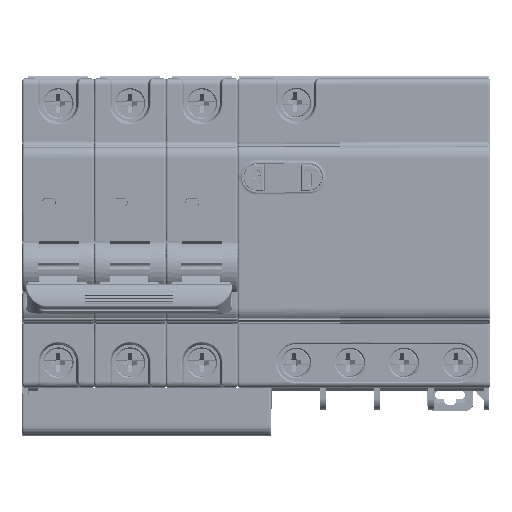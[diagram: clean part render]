
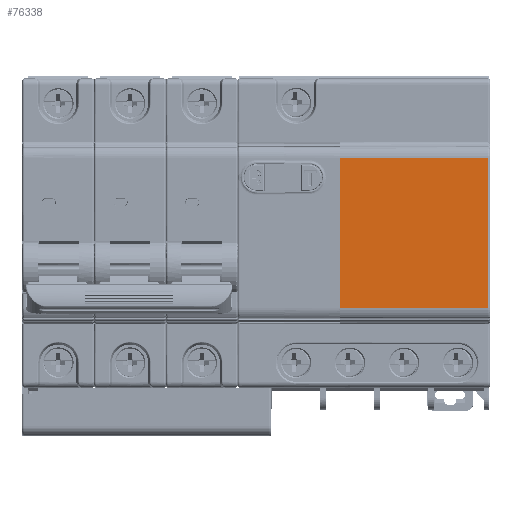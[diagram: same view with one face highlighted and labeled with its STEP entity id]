
A CAD part, top view. The second image highlights one B-rep face of the part: STEP entity #76338.
In plain terms, the highlighted planar face has unit normal (0, 0, 1) as drawn and (0, 1, 0) by its records, which use the part's own axes.
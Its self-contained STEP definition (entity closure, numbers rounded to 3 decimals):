
#27317 = ORIENTED_EDGE ( 'NONE', *, *, #124148, .F. ) ;
#31807 = EDGE_CURVE ( 'NONE', #558340, #444867, #517232, .T. ) ;
#32711 = VECTOR ( 'NONE', #71128, 1000. ) ;
#48528 = CARTESIAN_POINT ( 'NONE',  ( -18.5, 14., 115.5 ) ) ;
#71128 = DIRECTION ( 'NONE',  ( 1., 0., 0. ) ) ;
#74578 = ORIENTED_EDGE ( 'NONE', *, *, #328307, .T. ) ;
#75318 = VECTOR ( 'NONE', #497059, 1000. ) ;
#76338 = ADVANCED_FACE ( 'NONE', ( #123072 ), #211181, .T. ) ;
#88584 = CARTESIAN_POINT ( 'NONE',  ( -18.5, 14., 78.8 ) ) ;
#99234 = VERTEX_POINT ( 'NONE', #123912 ) ;
#122326 = CARTESIAN_POINT ( 'NONE',  ( -18.5, 14., 115.5 ) ) ;
#123072 = FACE_OUTER_BOUND ( 'NONE', #188802, .T. ) ;
#123912 = CARTESIAN_POINT ( 'NONE',  ( 18.5, 14., 115.5 ) ) ;
#124148 = EDGE_CURVE ( 'NONE', #444867, #125209, #335205, .T. ) ;
#125209 = VERTEX_POINT ( 'NONE', #315031 ) ;
#176935 = CARTESIAN_POINT ( 'NONE',  ( 22.5, 14., 78.8 ) ) ;
#188802 = EDGE_LOOP ( 'NONE', ( #27317, #312863, #74578, #200752 ) ) ;
#198731 = CARTESIAN_POINT ( 'NONE',  ( -18.5, 14., 115.5 ) ) ;
#200752 = ORIENTED_EDGE ( 'NONE', *, *, #383206, .F. ) ;
#211181 = PLANE ( 'NONE',  #335746 ) ;
#215514 = VECTOR ( 'NONE', #230805, 1000. ) ;
#230805 = DIRECTION ( 'NONE',  ( 0., 0., 1. ) ) ;
#244667 = DIRECTION ( 'NONE',  ( 0., 0., -1. ) ) ;
#296326 = DIRECTION ( 'NONE',  ( 1., 0., 0. ) ) ;
#312863 = ORIENTED_EDGE ( 'NONE', *, *, #31807, .F. ) ;
#315031 = CARTESIAN_POINT ( 'NONE',  ( 18.5, 14., 78.8 ) ) ;
#328307 = EDGE_CURVE ( 'NONE', #558340, #99234, #374752, .T. ) ;
#335205 = LINE ( 'NONE', #508551, #32711 ) ;
#335746 = AXIS2_PLACEMENT_3D ( 'NONE', #176935, #341810, #296326 ) ;
#341810 = DIRECTION ( 'NONE',  ( 0., 1., 0. ) ) ;
#374752 = LINE ( 'NONE', #198731, #75318 ) ;
#383206 = EDGE_CURVE ( 'NONE', #125209, #99234, #409614, .T. ) ;
#409614 = LINE ( 'NONE', #486529, #215514 ) ;
#438625 = VECTOR ( 'NONE', #244667, 1000. ) ;
#444867 = VERTEX_POINT ( 'NONE', #88584 ) ;
#486529 = CARTESIAN_POINT ( 'NONE',  ( 18.5, 14., 78.8 ) ) ;
#497059 = DIRECTION ( 'NONE',  ( 1., 0., 0. ) ) ;
#508551 = CARTESIAN_POINT ( 'NONE',  ( -18.5, 14., 78.8 ) ) ;
#517232 = LINE ( 'NONE', #122326, #438625 ) ;
#558340 = VERTEX_POINT ( 'NONE', #48528 ) ;
